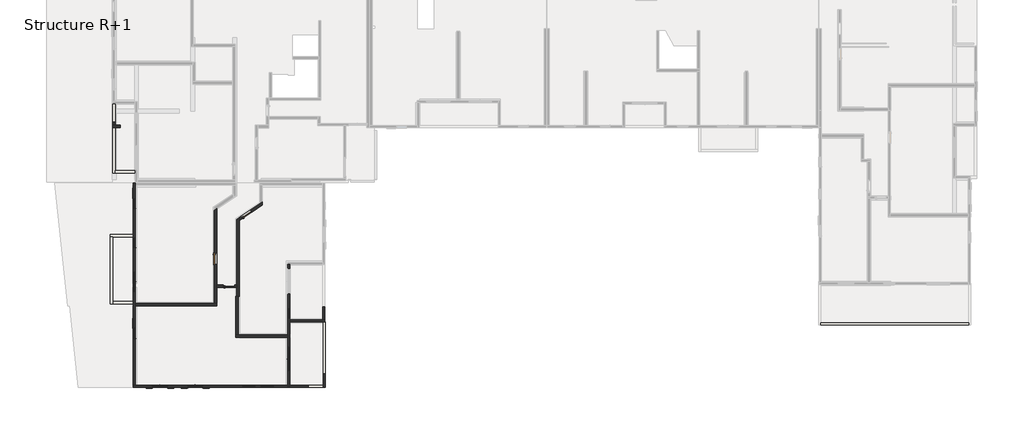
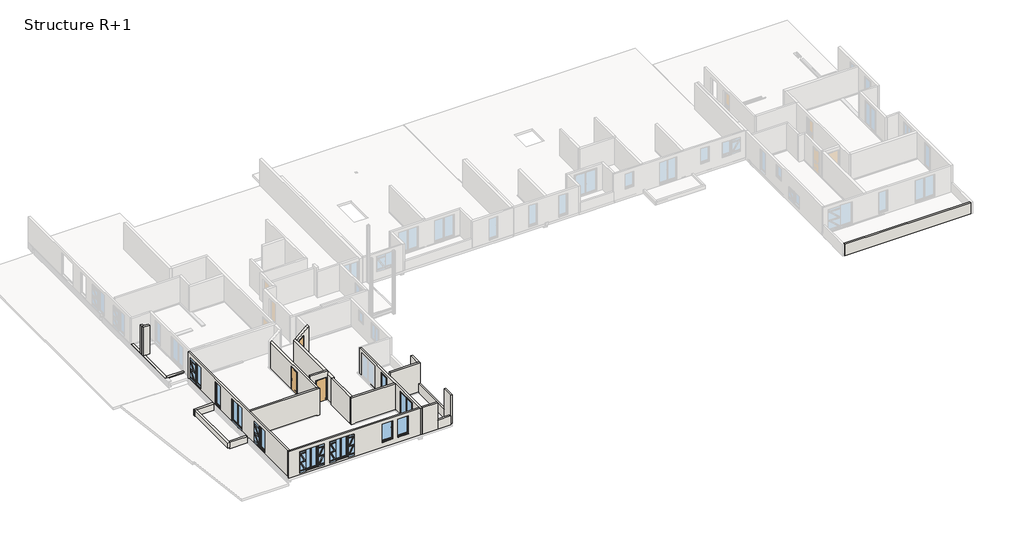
# One storey, part 1 of 11: 24 walls, 10 windows, 3 doors.
"""IFC4 building model written with IfcOpenShell, lengths in millimetres."""

from ifc_helpers import new_model, si_unit, frame, origin, place, context, project, spatial, polyline, outline, extrude, faceted_brep, transform, mapped, element, save
from components import door_6208809c, window_0_80m_x_2_05m_45d8a1b5, window_0_80m_x_2_15m_73fb6ae2, window_1_vantail_droit_db0ce4d6, window_1_00m_x_1_75m_f7db58c6, window_1_10m_x_2_05m_0457a856, window_1_60m_x_2_15m_1bfb613b, window_1_80m_x_2_15m_7d3a4370

model = new_model("IFC4")

# Units and contexts
model_context = context("Model", 3, world=origin())
ifc_project = project(units=[si_unit("LENGTHUNIT", "METRE", prefix="MILLI")], contexts=[model_context])

# Site, building, storey
site = spatial("IfcSite", under=ifc_project)
building = spatial("IfcBuilding", under=site)
storey = spatial("IfcBuildingStorey", under=building, Name="Structure R+1", Elevation=3320.0)

# Doors
placement = place(None, origin())
door_shape = door_6208809c(model_context)
element("IfcDoor", 1, ObjectType="Entrée (avec angle d'ouverture) : PP Lisse (0.90 m x 2.15 m)", at=placement, inside=storey, context=model_context, shape_type="MappedRepresentation", body=[
    mapped(door_shape, transform((12738.9344904, 1911.6114807, 3320.0), x_axis=(1.0, 0.0, 0.0), y_axis=(0.0, 1.0, 0.0), z_axis=(0.0, 0.0, 1.0))),
])
element("IfcDoor", 2, ObjectType="Entrée (avec angle d'ouverture) : PP Lisse (0.90 m x 2.15 m)", at=placement, inside=storey, context=model_context, shape_type="MappedRepresentation", body=[
    mapped(door_shape, transform((11654.0730744, 4064.6107801, 3320.0), x_axis=(0.0, -1.0, 0.0), y_axis=(1.0, 0.0, 0.0), z_axis=(0.0, 0.0, 1.0))),
])
element("IfcDoor", 3, ObjectType="Entrée (avec angle d'ouverture) : PP Lisse (0.90 m x 2.15 m)", at=placement, inside=storey, context=model_context, shape_type="MappedRepresentation", body=[
    mapped(door_shape, transform((14099.7641367, 7598.9331745, 3320.0), x_axis=(0.8253883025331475, 0.5645654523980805, 0.0), y_axis=(-0.5645654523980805, 0.8253883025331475, 0.0), z_axis=(0.0, 0.0, 1.0))),
])

# Walls
element("IfcWall", 4, ObjectType="Ext. Voile BA 16 + 2 + 2", at=placement, inside=storey, context=model_context, shape_type="Brep", body=[
    faceted_brep([(18982.9329233, -6105.1620119, 5830.0), (17522.934101, -6105.1620119, 5830.0), (17522.934101, -6105.1620119, 3230.0), (18982.9329233, -6105.1620119, 3230.0), (18982.9329233, -6105.1620119, 4120.0), (17522.934101, -5945.1620119, 5830.0), (18982.9329233, -5945.1620119, 5830.0), (18982.9329233, -5945.1620119, 4120.0), (18982.9329233, -5945.1620119, 3230.0), (17522.934101, -5945.1620119, 3230.0)], [[[0, 1, 2, 3, 4]], [[5, 6, 7, 8, 9]], [[6, 0, 4, 3, 8, 7]], [[1, 0, 6, 5]], [[3, 2, 9, 8]], [[1, 5, 9, 2]]]),
])
element("IfcWall", 5, ObjectType="Ext. Voile BA 16 + 2 + 2", at=placement, inside=storey, context=model_context, shape_type="Brep", body=[
    faceted_brep([(20327.8598396, -6105.1620119, 6120.0), (20327.8598396, -6105.1620119, 3320.0), (20327.8598396, -5045.6481556, 3320.0), (20327.8598396, -5045.6481556, 4130.0), (20327.8598396, -5045.6481556, 6120.0), (20167.8598396, -6105.1620119, 3320.0), (20167.8598396, -6105.1620119, 4120.0), (20167.8598396, -6105.1620119, 5830.0), (20167.8598396, -6105.1620119, 6120.0), (20167.8598396, -5045.6481556, 6120.0), (20167.8598396, -5045.6481556, 4130.0), (20167.8598396, -5045.6481556, 3320.0)], [[[0, 1, 2, 3, 4]], [[5, 6, 7, 8, 9, 10, 11]], [[2, 1, 5, 11]], [[4, 3, 2, 11, 10, 9]], [[0, 4, 9, 8]], [[0, 8, 7, 6, 5, 1]]]),
])
element("IfcWall", 6, ObjectType="Ext. Voile BA 16 + 2 + 2", at=placement, inside=storey, context=model_context, shape_type="Brep", body=[
    faceted_brep([(17535.920738, -934.9801512, 3320.0), (20315.920738, -934.9801512, 3320.0), (20315.920738, -934.9801512, 6120.0), (17535.920738, -934.9801512, 6120.0), (17535.920738, -774.9801512, 3320.0), (17535.920738, -774.9801512, 6120.0), (20155.920738, -774.9801512, 6120.0), (20315.920738, -774.9801512, 6120.0), (20315.920738, -774.9801512, 3320.0), (20155.920738, -774.9801512, 3320.0)], [[[0, 1, 2, 3]], [[4, 5, 6, 7, 8, 9]], [[1, 0, 4, 9, 8]], [[3, 2, 7, 6, 5]], [[0, 3, 5, 4]], [[1, 8, 7, 2]]]),
])
element("IfcWall", 7, ObjectType="Ext. Voile BA 16 + 2 + 2", at=placement, inside=storey, context=model_context, shape_type="Brep", body=[
    faceted_brep([(20315.920738, -774.9801512, 6120.0), (20315.920738, -774.9801512, 3320.0), (20315.920738, 265.0198488, 3320.0), (20315.920738, 265.0198488, 4130.0), (20315.920738, 265.0198488, 6120.0), (20155.920738, -774.9801512, 3320.0), (20155.920738, -774.9801512, 6120.0), (20155.920738, 265.0198488, 6120.0), (20155.920738, 265.0198488, 4130.0), (20155.920738, 265.0198488, 3320.0)], [[[0, 1, 2, 3, 4]], [[5, 6, 7, 8, 9]], [[2, 1, 5, 9]], [[4, 3, 2, 9, 8, 7]], [[0, 4, 7, 6]], [[0, 6, 5, 1]]]),
])
element("IfcWall", 8, ObjectType="Ext. Voile BA 16 + 2 + 2", at=placement, inside=storey, context=model_context, shape_type="Brep", body=[
    faceted_brep([(20327.8598396, -5045.6481556, 3230.0), (20327.8598396, -934.9801512, 3230.0), (20327.8598396, -934.9801512, 4130.0), (20327.8598396, -5045.6481556, 4130.0), (20327.8598396, -5045.6481556, 3320.0), (20167.8598396, -5045.6481556, 3230.0), (20167.8598396, -5045.6481556, 3320.0), (20167.8598396, -5045.6481556, 4130.0), (20167.8598396, -934.9801512, 4130.0), (20167.8598396, -934.9801512, 3230.0)], [[[0, 1, 2, 3, 4]], [[5, 6, 7, 8, 9]], [[1, 0, 5, 9]], [[3, 2, 8, 7]], [[0, 4, 3, 7, 6, 5]], [[2, 1, 9, 8]]]),
])
element("IfcWall", 9, ObjectType="Ext. Voile BA 16 + 2 + 2", at=placement, inside=storey, context=model_context, shape_type="Brep", body=[
    faceted_brep([(20167.8598396, -6105.1620119, 4120.0), (18982.9329233, -6105.1620119, 4120.0), (18982.9329233, -6105.1620119, 3230.0), (20167.8598396, -6105.1620119, 3230.0), (20167.8598396, -6105.1620119, 3320.0), (18982.9329233, -5945.1620119, 4120.0), (20167.8598396, -5945.1620119, 4120.0), (20167.8598396, -5945.1620119, 3230.0), (18982.9329233, -5945.1620119, 3230.0)], [[[0, 1, 2, 3, 4]], [[5, 6, 7, 8]], [[1, 0, 6, 5]], [[1, 5, 8, 2]], [[3, 2, 8, 7]], [[6, 0, 4, 3, 7]]]),
])
element("IfcWall", 10, ObjectType="Ext. Voile BA 16 + 2 + 2", at=placement, inside=storey, context=model_context, shape_type="SweptSolid", body=[
    extrude(outline(polyline([(-1157.3118451, 3030.0), (-1157.3118451, 4130.0), (-997.3118451, 4130.0), (-997.3118451, 3230.0), (-1137.3140034, 3230.0), (-1137.3140034, 3030.0), (-1157.3118451, 3030.0)])), frame((59492.9059955, 0.0, 0.0), z_axis=(1.0, 0.0, 0.0), x_axis=(0.0, 1.0, 0.0)), (0.0, 0.0, 1.0), 11684.1221954),
])
element("IfcWall", 11, ObjectType="Ext. Voile BA 16 + Isolant 120", at=placement, inside=storey, context=model_context, shape_type="Brep", body=[
    faceted_brep([(17362.934101, 3635.465256, 3230.0), (17362.934101, -1937.3575704, 3230.0), (17362.934101, -2137.3575704, 3230.0), (17362.934101, -5945.1620119, 3230.0), (17362.934101, -6105.1620119, 3230.0), (17362.934101, -6105.1620119, 5830.0), (17362.934101, -5945.1620119, 5830.0), (17362.934101, -2137.3575704, 5830.0), (17362.934101, -1937.3575704, 5830.0), (17362.934101, 3635.465256, 5830.0), (17362.934101, -4787.3575704, 3355.0), (17362.934101, -2887.3575704, 3355.0), (17362.934101, -2887.3575704, 5555.0), (17362.934101, -4787.3575704, 5555.0), (17362.934101, -710.0285448, 4055.0), (17362.934101, 189.9714552, 4055.0), (17362.934101, 189.9714552, 5555.0), (17362.934101, -710.0285448, 5555.0), (17362.934101, 1245.465256, 3355.0), (17362.934101, 3345.465256, 3355.0), (17362.934101, 3345.465256, 5555.0), (17362.934101, 1245.465256, 5555.0), (17522.934101, 3635.465256, 3230.0), (17522.934101, 3635.465256, 5830.0), (17522.934101, -5945.1620119, 5830.0), (17522.934101, -6105.1620119, 5830.0), (17522.934101, -6105.1620119, 3230.0), (17522.934101, -5945.1620119, 3230.0), (17522.934101, -2937.3575704, 5505.0), (17522.934101, -2937.3575704, 3346.5916612), (17522.934101, -4737.3575704, 3346.5916612), (17522.934101, -4737.3575704, 5505.0), (17522.934101, 139.9714552, 5505.0), (17522.934101, 139.9714552, 3975.0), (17522.934101, -660.0285448, 3975.0), (17522.934101, -660.0285448, 5505.0), (17522.934101, 3295.465256, 5505.0), (17522.934101, 3295.465256, 3346.5916612), (17522.934101, 1295.465256, 3346.5916612), (17522.934101, 1295.465256, 5505.0), (17442.934101, -6105.1620119, 5830.0), (17442.934101, -2937.3575704, 3355.0), (17462.934101, -2937.3575704, 5505.0), (17462.934101, -2937.3575704, 3355.0), (17442.934101, -4737.3575704, 3355.0), (17462.934101, -4737.3575704, 3355.0), (17462.934101, -4737.3575704, 5505.0), (17462.934101, -2927.3575704, 3355.0), (17412.934101, -2927.3575704, 3355.0), (17412.934101, -2887.3575704, 3355.0), (17412.934101, -4787.3575704, 3355.0), (17412.934101, -4747.3575704, 3355.0), (17462.934101, -4747.3575704, 3355.0), (17412.934101, -2887.3575704, 5555.0), (17412.934101, -2927.3575704, 5515.0), (17412.934101, -4747.3575704, 5515.0), (17412.934101, -4787.3575704, 5555.0), (17462.934101, -2927.3575704, 5515.0), (17462.934101, -4747.3575704, 5515.0), (17442.934101, 139.9714552, 4055.0), (17442.934101, 139.9714552, 3975.0), (17462.934101, 139.9714552, 5505.0), (17462.934101, 139.9714552, 4055.0), (17442.934101, -660.0285448, 3975.0), (17442.934101, -660.0285448, 4055.0), (17462.934101, -660.0285448, 4055.0), (17462.934101, -660.0285448, 5505.0), (17462.934101, 149.9714552, 4055.0), (17412.934101, 149.9714552, 4055.0), (17412.934101, 189.9714552, 4055.0), (17412.934101, -710.0285448, 4055.0), (17412.934101, -670.0285448, 4055.0), (17462.934101, -670.0285448, 4055.0), (17412.934101, 189.9714552, 5555.0), (17412.934101, 149.9714552, 5515.0), (17412.934101, -670.0285448, 5515.0), (17412.934101, -710.0285448, 5555.0), (17462.934101, 149.9714552, 5515.0), (17462.934101, -670.0285448, 5515.0), (17442.934101, 3295.465256, 3355.0), (17462.934101, 3295.465256, 5505.0), (17462.934101, 3295.465256, 3355.0), (17442.934101, 1295.465256, 3355.0), (17462.934101, 1295.465256, 3355.0), (17462.934101, 1295.465256, 5505.0), (17462.934101, 3305.465256, 3355.0), (17412.934101, 3305.465256, 3355.0), (17412.934101, 3345.465256, 3355.0), (17412.934101, 1245.465256, 3355.0), (17412.934101, 1285.465256, 3355.0), (17462.934101, 1285.465256, 3355.0), (17412.934101, 3345.465256, 5555.0), (17412.934101, 3305.465256, 5515.0), (17412.934101, 1285.465256, 5515.0), (17412.934101, 1245.465256, 5555.0), (17462.934101, 3305.465256, 5515.0), (17462.934101, 1285.465256, 5515.0)], [[[0, 1, 2, 3, 4, 5, 6, 7, 8, 9], [10, 11, 12, 13], [14, 15, 16, 17], [18, 19, 20, 21]], [[22, 23, 24, 25, 26, 27], [28, 29, 30, 31], [32, 33, 34, 35], [36, 37, 38, 39]], [[4, 3, 2, 1, 0, 22, 27, 26]], [[9, 8, 7, 6, 5, 40, 25, 24, 23]], [[0, 9, 23, 22]], [[5, 4, 26, 25, 40]], [[41, 29, 28, 42, 43]], [[30, 44, 45, 46, 31]], [[41, 44, 30, 29]], [[28, 31, 46, 42]], [[44, 41, 43, 47, 48, 49, 11, 10, 50, 51, 52, 45]], [[11, 49, 53, 12]], [[49, 48, 54, 55, 51, 50, 56, 53]], [[48, 47, 57, 54]], [[47, 43, 42, 46, 45, 52, 58, 57]], [[12, 53, 56, 13]], [[55, 54, 57, 58]], [[56, 50, 10, 13]], [[51, 55, 58, 52]], [[59, 60, 33, 32, 61, 62]], [[63, 64, 65, 66, 35, 34]], [[60, 63, 34, 33]], [[60, 59, 64, 63]], [[32, 35, 66, 61]], [[64, 59, 62, 67, 68, 69, 15, 14, 70, 71, 72, 65]], [[15, 69, 73, 16]], [[69, 68, 74, 75, 71, 70, 76, 73]], [[68, 67, 77, 74]], [[67, 62, 61, 66, 65, 72, 78, 77]], [[16, 73, 76, 17]], [[75, 74, 77, 78]], [[76, 70, 14, 17]], [[71, 75, 78, 72]], [[79, 37, 36, 80, 81]], [[38, 82, 83, 84, 39]], [[79, 82, 38, 37]], [[36, 39, 84, 80]], [[82, 79, 81, 85, 86, 87, 19, 18, 88, 89, 90, 83]], [[19, 87, 91, 20]], [[87, 86, 92, 93, 89, 88, 94, 91]], [[86, 85, 95, 92]], [[85, 81, 80, 84, 83, 90, 96, 95]], [[20, 91, 94, 21]], [[93, 92, 95, 96]], [[94, 88, 18, 21]], [[89, 93, 96, 90]]]),
])
element("IfcWall", 12, ObjectType="Ext. Voile BA 16 + Isolant 120", at=placement, inside=storey, context=model_context, shape_type="Brep", body=[
    faceted_brep([(5184.2512184, -5945.1620119, 5830.0), (5344.2512184, -5945.1620119, 5830.0), (17362.934101, -5945.1620119, 5830.0), (17362.934101, -5945.1620119, 3230.0), (5344.2512184, -5945.1620119, 3230.0), (5184.2512184, -5945.1620119, 3230.0), (6684.2512184, -5945.1620119, 3455.0), (7884.2512184, -5945.1620119, 3455.0), (7884.2512184, -5945.1620119, 5555.0), (6684.2512184, -5945.1620119, 5555.0), (9464.2512184, -5945.1620119, 3455.0), (10664.2512184, -5945.1620119, 3455.0), (10664.2512184, -5945.1620119, 5555.0), (9464.2512184, -5945.1620119, 5555.0), (13752.934101, -5945.1620119, 3755.0), (14852.934101, -5945.1620119, 3755.0), (14852.934101, -5945.1620119, 5555.0), (13752.934101, -5945.1620119, 5555.0), (15202.934101, -5945.1620119, 3755.0), (16302.934101, -5945.1620119, 3755.0), (16302.934101, -5945.1620119, 5555.0), (15202.934101, -5945.1620119, 5555.0), (17362.934101, -6105.1620119, 5830.0), (5184.2512184, -6105.1620119, 5830.0), (5184.2512184, -6105.1620119, 3230.0), (17362.934101, -6105.1620119, 3230.0), (7834.2512184, -6105.1620119, 5505.0), (7834.2512184, -6105.1620119, 3446.5916612), (6734.2512184, -6105.1620119, 3446.5916612), (6734.2512184, -6105.1620119, 5505.0), (10614.2512184, -6105.1620119, 5505.0), (10614.2512184, -6105.1620119, 3446.5916612), (9514.2512184, -6105.1620119, 3446.5916612), (9514.2512184, -6105.1620119, 5505.0), (14802.934101, -6105.1620119, 5505.0), (14802.934101, -6105.1620119, 3746.5916612), (13802.934101, -6105.1620119, 3746.5916612), (13802.934101, -6105.1620119, 5505.0), (16252.934101, -6105.1620119, 5505.0), (16252.934101, -6105.1620119, 3746.5916612), (15252.934101, -6105.1620119, 3746.5916612), (15252.934101, -6105.1620119, 5505.0), (7834.2512184, -6025.1620119, 3455.0), (7834.2512184, -6045.1620119, 5505.0), (7834.2512184, -6045.1620119, 3455.0), (6734.2512184, -6025.1620119, 3455.0), (6734.2512184, -6045.1620119, 3455.0), (6734.2512184, -6045.1620119, 5505.0), (7844.2512184, -6045.1620119, 3455.0), (7844.2512184, -5995.1620119, 3455.0), (7884.2512184, -5995.1620119, 3455.0), (6684.2512184, -5995.1620119, 3455.0), (6724.2512184, -5995.1620119, 3455.0), (6724.2512184, -6045.1620119, 3455.0), (7884.2512184, -5995.1620119, 5555.0), (7844.2512184, -5995.1620119, 5515.0), (6724.2512184, -5995.1620119, 5515.0), (6684.2512184, -5995.1620119, 5555.0), (7844.2512184, -6045.1620119, 5515.0), (6724.2512184, -6045.1620119, 5515.0), (10614.2512184, -6025.1620119, 3455.0), (10614.2512184, -6045.1620119, 5505.0), (10614.2512184, -6045.1620119, 3455.0), (9514.2512184, -6025.1620119, 3455.0), (9514.2512184, -6045.1620119, 3455.0), (9514.2512184, -6045.1620119, 5505.0), (10624.2512184, -6045.1620119, 3455.0), (10624.2512184, -5995.1620119, 3455.0), (10664.2512184, -5995.1620119, 3455.0), (9464.2512184, -5995.1620119, 3455.0), (9504.2512184, -5995.1620119, 3455.0), (9504.2512184, -6045.1620119, 3455.0), (10664.2512184, -5995.1620119, 5555.0), (10624.2512184, -5995.1620119, 5515.0), (9504.2512184, -5995.1620119, 5515.0), (9464.2512184, -5995.1620119, 5555.0), (10624.2512184, -6045.1620119, 5515.0), (9504.2512184, -6045.1620119, 5515.0), (14802.934101, -6025.1620119, 3755.0), (14802.934101, -6045.1620119, 5505.0), (14802.934101, -6045.1620119, 3755.0), (13802.934101, -6025.1620119, 3755.0), (13802.934101, -6045.1620119, 3755.0), (13802.934101, -6045.1620119, 5505.0), (14812.934101, -6045.1620119, 3755.0), (14812.934101, -5995.1620119, 3755.0), (14852.934101, -5995.1620119, 3755.0), (13752.934101, -5995.1620119, 3755.0), (13792.934101, -5995.1620119, 3755.0), (13792.934101, -6045.1620119, 3755.0), (14852.934101, -5995.1620119, 5555.0), (14812.934101, -5995.1620119, 5515.0), (13792.934101, -5995.1620119, 5515.0), (13752.934101, -5995.1620119, 5555.0), (14812.934101, -6045.1620119, 5515.0), (13792.934101, -6045.1620119, 5515.0), (16252.934101, -6025.1620119, 3755.0), (16252.934101, -6045.1620119, 5505.0), (16252.934101, -6045.1620119, 3755.0), (15252.934101, -6025.1620119, 3755.0), (15252.934101, -6045.1620119, 3755.0), (15252.934101, -6045.1620119, 5505.0), (16262.934101, -6045.1620119, 3755.0), (16262.934101, -5995.1620119, 3755.0), (16302.934101, -5995.1620119, 3755.0), (15202.934101, -5995.1620119, 3755.0), (15242.934101, -5995.1620119, 3755.0), (15242.934101, -6045.1620119, 3755.0), (16302.934101, -5995.1620119, 5555.0), (16262.934101, -5995.1620119, 5515.0), (15242.934101, -5995.1620119, 5515.0), (15202.934101, -5995.1620119, 5555.0), (16262.934101, -6045.1620119, 5515.0), (15242.934101, -6045.1620119, 5515.0)], [[[0, 1, 2, 3, 4, 5], [6, 7, 8, 9], [10, 11, 12, 13], [14, 15, 16, 17], [18, 19, 20, 21]], [[22, 23, 24, 25], [26, 27, 28, 29], [30, 31, 32, 33], [34, 35, 36, 37], [38, 39, 40, 41]], [[2, 1, 0, 23, 22]], [[23, 0, 5, 24]], [[2, 22, 25, 3]], [[42, 27, 26, 43, 44]], [[28, 45, 46, 47, 29]], [[27, 42, 45, 28]], [[43, 26, 29, 47]], [[42, 44, 48, 49, 50, 7, 6, 51, 52, 53, 46, 45]], [[7, 50, 54, 8]], [[50, 49, 55, 56, 52, 51, 57, 54]], [[49, 48, 58, 55]], [[44, 43, 47, 46, 53, 59, 58, 48]], [[8, 54, 57, 9]], [[56, 55, 58, 59]], [[51, 6, 9, 57]], [[53, 52, 56, 59]], [[60, 31, 30, 61, 62]], [[32, 63, 64, 65, 33]], [[31, 60, 63, 32]], [[61, 30, 33, 65]], [[60, 62, 66, 67, 68, 11, 10, 69, 70, 71, 64, 63]], [[11, 68, 72, 12]], [[68, 67, 73, 74, 70, 69, 75, 72]], [[67, 66, 76, 73]], [[62, 61, 65, 64, 71, 77, 76, 66]], [[12, 72, 75, 13]], [[74, 73, 76, 77]], [[69, 10, 13, 75]], [[71, 70, 74, 77]], [[78, 35, 34, 79, 80]], [[36, 81, 82, 83, 37]], [[35, 78, 81, 36]], [[79, 34, 37, 83]], [[78, 80, 84, 85, 86, 15, 14, 87, 88, 89, 82, 81]], [[15, 86, 90, 16]], [[86, 85, 91, 92, 88, 87, 93, 90]], [[85, 84, 94, 91]], [[80, 79, 83, 82, 89, 95, 94, 84]], [[16, 90, 93, 17]], [[92, 91, 94, 95]], [[87, 14, 17, 93]], [[89, 88, 92, 95]], [[96, 39, 38, 97, 98]], [[40, 99, 100, 101, 41]], [[39, 96, 99, 40]], [[97, 38, 41, 101]], [[96, 98, 102, 103, 104, 19, 18, 105, 106, 107, 100, 99]], [[19, 104, 108, 20]], [[104, 103, 109, 110, 106, 105, 111, 108]], [[103, 102, 112, 109]], [[98, 97, 101, 100, 107, 113, 112, 102]], [[20, 108, 111, 21]], [[110, 109, 112, 113]], [[105, 18, 21, 111]], [[107, 106, 110, 113]], [[5, 4, 3, 25, 24]]]),
])
element("IfcWall", 13, ObjectType="Ext. Voile BA 16 + Isolant 120", at=placement, inside=storey, context=model_context, shape_type="Brep", body=[
    faceted_brep([(5344.2512184, 10055.4625547, 5830.0), (5344.2512184, 9895.4625547, 5830.0), (5344.2512184, 541.1262359, 5830.0), (5344.2512184, 341.1262359, 5830.0), (5344.2512184, -5945.1620119, 5830.0), (5344.2512184, -5945.1620119, 3230.0), (5344.2512184, 341.1262359, 3230.0), (5344.2512184, 541.1262359, 3230.0), (5344.2512184, 9895.4625547, 3230.0), (5344.2512184, 10055.4625547, 3230.0), (5344.2512184, 8875.4658562, 3455.0), (5344.2512184, 7975.4658562, 3455.0), (5344.2512184, 7975.4658562, 5555.0), (5344.2512184, 8875.4658562, 5555.0), (5344.2512184, 5775.4658562, 3355.0), (5344.2512184, 4875.4658562, 3355.0), (5344.2512184, 4875.4658562, 5555.0), (5344.2512184, 5775.4658562, 5555.0), (5344.2512184, 3091.1262359, 3355.0), (5344.2512184, 1391.1262359, 3355.0), (5344.2512184, 1391.1262359, 5555.0), (5344.2512184, 3091.1262359, 5555.0), (5344.2512184, -1408.8737641, 3455.0), (5344.2512184, -2308.8737641, 3455.0), (5344.2512184, -2308.8737641, 5555.0), (5344.2512184, -1408.8737641, 5555.0), (5184.2512184, -5945.1620119, 5830.0), (5184.2512184, 10055.4625547, 5830.0), (5184.2512184, 10055.4625547, 3230.0), (5184.2512184, -5945.1620119, 3230.0), (5184.2512184, 8025.4658562, 5505.0), (5184.2512184, 8025.4658562, 3446.5916612), (5184.2512184, 8825.4658562, 3446.5916612), (5184.2512184, 8825.4658562, 5505.0), (5184.2512184, 4925.4658562, 5505.0), (5184.2512184, 4925.4658562, 3346.5916612), (5184.2512184, 5725.4658562, 3346.5916612), (5184.2512184, 5725.4658562, 5505.0), (5184.2512184, 1441.1262359, 5505.0), (5184.2512184, 1441.1262359, 3346.5916612), (5184.2512184, 3041.1262359, 3346.5916612), (5184.2512184, 3041.1262359, 5505.0), (5184.2512184, -2258.8737641, 5505.0), (5184.2512184, -2258.8737641, 3446.5916612), (5184.2512184, -1458.8737641, 3446.5916612), (5184.2512184, -1458.8737641, 5505.0), (5264.2512184, 8025.4658562, 3455.0), (5244.2512184, 8025.4658562, 5505.0), (5244.2512184, 8025.4658562, 3455.0), (5264.2512184, 8825.4658562, 3455.0), (5244.2512184, 8825.4658562, 3455.0), (5244.2512184, 8825.4658562, 5505.0), (5244.2512184, 8015.4658562, 3455.0), (5294.2512184, 8015.4658562, 3455.0), (5294.2512184, 7975.4658562, 3455.0), (5294.2512184, 8875.4658562, 3455.0), (5294.2512184, 8835.4658562, 3455.0), (5244.2512184, 8835.4658562, 3455.0), (5294.2512184, 7975.4658562, 5555.0), (5294.2512184, 8015.4658562, 5515.0), (5294.2512184, 8835.4658562, 5515.0), (5294.2512184, 8875.4658562, 5555.0), (5244.2512184, 8015.4658562, 5515.0), (5244.2512184, 8835.4658562, 5515.0), (5264.2512184, 4925.4658562, 3355.0), (5244.2512184, 4925.4658562, 5505.0), (5244.2512184, 4925.4658562, 3355.0), (5264.2512184, 5725.4658562, 3355.0), (5244.2512184, 5725.4658562, 3355.0), (5244.2512184, 5725.4658562, 5505.0), (5244.2512184, 4915.4658562, 3355.0), (5294.2512184, 4915.4658562, 3355.0), (5294.2512184, 4875.4658562, 3355.0), (5294.2512184, 5775.4658562, 3355.0), (5294.2512184, 5735.4658562, 3355.0), (5244.2512184, 5735.4658562, 3355.0), (5294.2512184, 4875.4658562, 5555.0), (5294.2512184, 4915.4658562, 5515.0), (5294.2512184, 5735.4658562, 5515.0), (5294.2512184, 5775.4658562, 5555.0), (5244.2512184, 4915.4658562, 5515.0), (5244.2512184, 5735.4658562, 5515.0), (5264.2512184, 1441.1262359, 3355.0), (5244.2512184, 1441.1262359, 5505.0), (5244.2512184, 1441.1262359, 3355.0), (5264.2512184, 3041.1262359, 3355.0), (5244.2512184, 3041.1262359, 3355.0), (5244.2512184, 3041.1262359, 5505.0), (5244.2512184, 1431.1262359, 3355.0), (5294.2512184, 1431.1262359, 3355.0), (5294.2512184, 1391.1262359, 3355.0), (5294.2512184, 3091.1262359, 3355.0), (5294.2512184, 3051.1262359, 3355.0), (5244.2512184, 3051.1262359, 3355.0), (5294.2512184, 1391.1262359, 5555.0), (5294.2512184, 1431.1262359, 5515.0), (5294.2512184, 3051.1262359, 5515.0), (5294.2512184, 3091.1262359, 5555.0), (5244.2512184, 1431.1262359, 5515.0), (5244.2512184, 3051.1262359, 5515.0), (5264.2512184, -2258.8737641, 3455.0), (5244.2512184, -2258.8737641, 5505.0), (5244.2512184, -2258.8737641, 3455.0), (5264.2512184, -1458.8737641, 3455.0), (5244.2512184, -1458.8737641, 3455.0), (5244.2512184, -1458.8737641, 5505.0), (5244.2512184, -2268.8737641, 3455.0), (5294.2512184, -2268.8737641, 3455.0), (5294.2512184, -2308.8737641, 3455.0), (5294.2512184, -1408.8737641, 3455.0), (5294.2512184, -1448.8737641, 3455.0), (5244.2512184, -1448.8737641, 3455.0), (5294.2512184, -2308.8737641, 5555.0), (5294.2512184, -2268.8737641, 5515.0), (5294.2512184, -1448.8737641, 5515.0), (5294.2512184, -1408.8737641, 5555.0), (5244.2512184, -2268.8737641, 5515.0), (5244.2512184, -1448.8737641, 5515.0)], [[[0, 1, 2, 3, 4, 5, 6, 7, 8, 9], [10, 11, 12, 13], [14, 15, 16, 17], [18, 19, 20, 21], [22, 23, 24, 25]], [[26, 27, 28, 29], [30, 31, 32, 33], [34, 35, 36, 37], [38, 39, 40, 41], [42, 43, 44, 45]], [[4, 3, 2, 1, 0, 27, 26]], [[4, 26, 29, 5]], [[46, 31, 30, 47, 48]], [[32, 49, 50, 51, 33]], [[31, 46, 49, 32]], [[47, 30, 33, 51]], [[46, 48, 52, 53, 54, 11, 10, 55, 56, 57, 50, 49]], [[11, 54, 58, 12]], [[54, 53, 59, 60, 56, 55, 61, 58]], [[53, 52, 62, 59]], [[48, 47, 51, 50, 57, 63, 62, 52]], [[12, 58, 61, 13]], [[60, 59, 62, 63]], [[55, 10, 13, 61]], [[57, 56, 60, 63]], [[64, 35, 34, 65, 66]], [[36, 67, 68, 69, 37]], [[35, 64, 67, 36]], [[65, 34, 37, 69]], [[64, 66, 70, 71, 72, 15, 14, 73, 74, 75, 68, 67]], [[15, 72, 76, 16]], [[72, 71, 77, 78, 74, 73, 79, 76]], [[71, 70, 80, 77]], [[66, 65, 69, 68, 75, 81, 80, 70]], [[16, 76, 79, 17]], [[78, 77, 80, 81]], [[73, 14, 17, 79]], [[75, 74, 78, 81]], [[82, 39, 38, 83, 84]], [[40, 85, 86, 87, 41]], [[39, 82, 85, 40]], [[83, 38, 41, 87]], [[82, 84, 88, 89, 90, 19, 18, 91, 92, 93, 86, 85]], [[19, 90, 94, 20]], [[90, 89, 95, 96, 92, 91, 97, 94]], [[89, 88, 98, 95]], [[84, 83, 87, 86, 93, 99, 98, 88]], [[20, 94, 97, 21]], [[96, 95, 98, 99]], [[91, 18, 21, 97]], [[93, 92, 96, 99]], [[100, 43, 42, 101, 102]], [[44, 103, 104, 105, 45]], [[43, 100, 103, 44]], [[101, 42, 45, 105]], [[100, 102, 106, 107, 108, 23, 22, 109, 110, 111, 104, 103]], [[23, 108, 112, 24]], [[108, 107, 113, 114, 110, 109, 115, 112]], [[107, 106, 116, 113]], [[102, 101, 105, 104, 111, 117, 116, 106]], [[24, 112, 115, 25]], [[114, 113, 116, 117]], [[109, 22, 25, 115]], [[111, 110, 114, 117]], [[27, 0, 9, 28]], [[9, 8, 7, 6, 5, 29, 28]]]),
])
element("IfcWall", 14, ObjectType="Voile BA 20", at=placement, inside=storey, context=model_context, shape_type="Brep", body=[
    faceted_brep([(17362.934101, -1937.3575704, 3230.0), (13465.9339903, -1937.3575704, 3230.0), (13265.9339903, -1937.3575704, 3230.0), (13265.9339903, -1937.3575704, 5830.0), (13465.9339903, -1937.3575704, 5830.0), (17362.934101, -1937.3575704, 5830.0), (17362.934101, -2137.3575704, 3230.0), (17362.934101, -2137.3575704, 5830.0), (13265.9339903, -2137.3575704, 5830.0), (13265.9339903, -2137.3575704, 3230.0)], [[[0, 1, 2, 3, 4, 5]], [[6, 7, 8, 9]], [[2, 1, 0, 6, 9]], [[5, 4, 3, 8, 7]], [[0, 5, 7, 6]], [[3, 2, 9, 8]]]),
])
element("IfcWall", 15, ObjectType="Voile BA 20", at=placement, inside=storey, context=model_context, shape_type="Brep", body=[
    faceted_brep([(13465.9339903, -1937.3575704, 3230.0), (13465.9339903, 1096.6940149, 3230.0), (13465.9339903, 1096.6940149, 5830.0), (13465.9339903, -1937.3575704, 5830.0), (13265.9339903, -1937.3575704, 3230.0), (13265.9339903, -1937.3575704, 5830.0), (13265.9339903, 1096.6940149, 5830.0), (13265.9339903, 1096.6940149, 3230.0), (13328.9344904, 1096.6940149, 3230.0), (13328.9344904, 1096.6940149, 5830.0)], [[[0, 1, 2, 3]], [[4, 5, 6, 7]], [[1, 0, 4, 7, 8]], [[2, 1, 8, 7, 6, 9]], [[3, 2, 9, 6, 5]], [[0, 3, 5, 4]]]),
])
element("IfcWall", 16, ObjectType="Voile BA 20", at=placement, inside=storey, context=model_context, shape_type="Brep", body=[
    faceted_brep([(5344.2512184, 341.1262359, 3230.0), (11754.0730744, 341.1262359, 3230.0), (11754.0730744, 341.1262359, 5830.0), (5344.2512184, 341.1262359, 5830.0), (5344.2512184, 541.1262359, 3230.0), (5344.2512184, 541.1262359, 5830.0), (11554.0730744, 541.1262359, 5830.0), (11754.0730744, 541.1262359, 5830.0), (11754.0730744, 541.1262359, 3230.0), (11554.0730744, 541.1262359, 3230.0)], [[[0, 1, 2, 3]], [[4, 5, 6, 7, 8, 9]], [[1, 0, 4, 9, 8]], [[3, 2, 7, 6, 5]], [[0, 3, 5, 4]], [[2, 1, 8, 7]]]),
])
element("IfcWall", 17, ObjectType="Voile BA 20", at=placement, inside=storey, context=model_context, shape_type="Brep", body=[
    faceted_brep([(4148.3371258, 14649.376496, 3320.0), (3748.3371258, 14649.376496, 3320.0), (3548.3371258, 14649.376496, 3320.0), (3548.3371258, 14649.376496, 6120.0), (3748.3371258, 14649.376496, 6120.0), (4148.3371258, 14649.376496, 6120.0), (4148.3371258, 14449.376496, 3320.0), (4148.3371258, 14449.376496, 6120.0), (3548.3371258, 14449.376496, 6120.0), (3548.3371258, 14449.376496, 3320.0)], [[[0, 1, 2, 3, 4, 5]], [[6, 7, 8, 9]], [[2, 1, 0, 6, 9]], [[5, 4, 3, 8, 7]], [[0, 5, 7, 6]], [[3, 2, 9, 8]]]),
])
element("IfcWall", 18, ObjectType="Voile BA 20", at=placement, inside=storey, context=model_context, shape_type="SweptSolid", body=[
    extrude(outline(polyline([(3748.3371258, 14889.376496), (3748.3371258, 14649.376496), (3548.3371258, 14649.376496), (3548.3371258, 14889.376496), (3748.3371258, 14889.376496)])), frame((0.0, 0.0, 3320.0), z_axis=(0.0, 0.0, 1.0), x_axis=(1.0, 0.0, 0.0)), (0.0, 0.0, 1.0), 2800.0),
])
element("IfcWall", 19, ObjectType="Voile BA 20", at=placement, inside=storey, context=model_context, shape_type="Brep", body=[
    faceted_brep([(3536.9058449, 16355.4652425, 2830.0), (3536.9058449, 10855.4652425, 2830.0), (3536.9058449, 10855.4652425, 3330.0), (3536.9058449, 16355.4652425, 3330.0), (3536.9058449, 16355.4652425, 3230.0), (3736.9058449, 16355.4652425, 2830.0), (3736.9058449, 16355.4652425, 3330.0), (3736.9058449, 11055.4652425, 3330.0), (3736.9058449, 10855.4652425, 3330.0), (3736.9058449, 10855.4652425, 2830.0), (3736.9058449, 11055.4652425, 2830.0)], [[[0, 1, 2, 3, 4]], [[5, 6, 7, 8, 9, 10]], [[1, 0, 5, 10, 9]], [[3, 2, 8, 7, 6]], [[0, 4, 3, 6, 5]], [[2, 1, 9, 8]]]),
])
element("IfcWall", 20, ObjectType="Voile BA 20", at=placement, inside=storey, context=model_context, shape_type="SweptSolid", body=[
    extrude(outline(polyline([(5329.893812, 10855.4652425), (3736.9058449, 10855.4652425), (3736.9058449, 11055.4652425), (5329.893812, 11055.4652425), (5329.893812, 10855.4652425)])), frame((0.0, 0.0, 2830.0), z_axis=(0.0, 0.0, 1.0), x_axis=(1.0, 0.0, 0.0)), (0.0, 0.0, 1.0), 500.0),
])
element("IfcWall", 21, ObjectType="Voile BA 20", at=placement, inside=storey, context=model_context, shape_type="Brep", body=[
    faceted_brep([(5184.2512184, 6002.4700355, 2710.0), (3344.2538576, 6002.4700355, 2710.0), (3344.2538576, 6002.4700355, 3330.0), (5184.2512184, 6002.4700355, 3330.0), (5184.2512184, 5802.4700355, 2710.0), (5184.2512184, 5802.4700355, 3330.0), (3544.2538576, 5802.4700355, 3330.0), (3344.2538576, 5802.4700355, 3330.0), (3344.2538576, 5802.4700355, 2830.0), (3344.2538576, 5802.4700355, 2710.0)], [[[0, 1, 2, 3]], [[4, 5, 6, 7, 8, 9]], [[1, 0, 4, 9]], [[3, 2, 7, 6, 5]], [[0, 3, 5, 4]], [[2, 1, 9, 8, 7]]]),
])
element("IfcWall", 22, ObjectType="Voile BA 20", at=placement, inside=storey, context=model_context, shape_type="Brep", body=[
    faceted_brep([(3344.2538576, 5802.4700355, 2830.0), (3344.2538576, 502.4700355, 2830.0), (3344.2538576, 502.4700355, 3330.0), (3344.2538576, 5802.4700355, 3330.0), (3544.2538576, 5802.4700355, 2830.0), (3544.2538576, 5802.4700355, 3330.0), (3544.2538576, 702.4700355, 3330.0), (3544.2538576, 502.4700355, 3330.0), (3544.2538576, 502.4700355, 2830.0)], [[[0, 1, 2, 3]], [[4, 5, 6, 7, 8]], [[1, 0, 4, 8]], [[3, 2, 7, 6, 5]], [[0, 3, 5, 4]], [[2, 1, 8, 7]]]),
])
element("IfcWall", 23, ObjectType="Voile BA 20", at=placement, inside=storey, context=model_context, shape_type="Brep", body=[
    faceted_brep([(3544.2538576, 502.4700355, 2710.0), (5144.2538576, 502.4700355, 2710.0), (5144.2538576, 502.4700355, 3330.0), (3544.2538576, 502.4700355, 3330.0), (3544.2538576, 502.4700355, 2830.0), (3544.2538576, 702.4700355, 2710.0), (3544.2538576, 702.4700355, 3330.0), (5144.2538576, 702.4700355, 3330.0), (5144.2538576, 702.4700355, 2710.0)], [[[0, 1, 2, 3, 4]], [[5, 6, 7, 8]], [[1, 0, 5, 8]], [[2, 1, 8, 7]], [[3, 2, 7, 6]], [[0, 4, 3, 6, 5]]]),
])
element("IfcWall", 24, ObjectType="Voile BA 20 + Isolant 60", at=placement, inside=storey, context=model_context, shape_type="Brep", body=[
    faceted_brep([(13528.9344904, 1096.6940149, 3230.0), (13528.9344904, 7087.3307006, 3230.0), (13528.9344904, 7329.6408949, 3230.0), (13528.9344904, 7329.6408949, 5830.0), (13528.9344904, 7087.3307006, 5830.0), (13528.9344904, 1096.6940149, 5830.0), (13328.9344904, 1096.6940149, 3230.0), (13328.9344904, 1096.6940149, 5830.0), (13328.9344904, 7192.8409304, 5830.0), (13328.9344904, 7192.8409304, 3230.0), (13465.9339903, 1096.6940149, 3230.0), (13465.9339903, 1096.6940149, 5830.0)], [[[0, 1, 2, 3, 4, 5]], [[6, 7, 8, 9]], [[2, 1, 0, 10, 6, 9]], [[5, 4, 3, 8, 7, 11]], [[0, 5, 11, 7, 6, 10]], [[3, 2, 9, 8]]]),
])
element("IfcWall", 25, ObjectType="Voile BA 20 + Isolant 60", at=placement, inside=storey, context=model_context, shape_type="Brep", body=[
    faceted_brep([(13528.9344904, 7087.3307006, 3230.0), (15352.2580905, 8334.4837193, 3230.0), (15352.2580905, 8334.4837193, 5830.0), (13528.9344904, 7087.3307006, 5830.0), (13768.2881798, 7251.0485816, 3320.0), (13743.5265307, 7234.111618, 3320.0), (13743.5265307, 7234.111618, 5510.0), (14552.4070672, 7787.3857614, 5510.0), (14552.4070672, 7787.3857614, 3320.0), (14527.6454181, 7770.4487978, 3320.0), (15352.2580905, 8576.7939137, 3230.0), (15152.2580905, 8439.9939492, 3230.0), (13528.9344904, 7329.6408949, 3230.0), (13528.9344904, 7329.6408949, 5830.0), (15152.2580905, 8439.9939492, 5830.0), (15352.2580905, 8576.7939137, 5830.0), (14414.7323276, 7935.5264583, 5480.0), (13655.3750893, 7416.1262421, 5480.0), (13655.3750893, 7416.1262421, 3320.0), (14414.7323276, 7935.5264583, 3320.0), (14471.1888729, 7852.987628, 5480.0), (13711.8316345, 7333.5874118, 5480.0), (13711.8316345, 7333.5874118, 3320.0), (13699.45081, 7325.1189301, 3320.0), (13723.7271245, 7289.627233, 3320.0), (13711.3462999, 7281.1587513, 3320.0), (14520.2268364, 7834.4328946, 3320.0), (14507.8460119, 7825.9644128, 3320.0), (14483.5696974, 7861.4561098, 3320.0), (14471.1888729, 7852.987628, 3320.0), (13723.7271245, 7289.627233, 5495.0), (14507.8460119, 7825.9644128, 5495.0), (14520.2268364, 7834.4328946, 5510.0), (13711.3462999, 7281.1587513, 5510.0), (13699.45081, 7325.1189301, 5495.0), (14483.5696974, 7861.4561098, 5495.0)], [[[0, 1, 2, 3], [4, 5, 6, 7, 8, 9]], [[10, 11, 12, 13, 14, 15], [16, 17, 18, 19]], [[1, 0, 12, 11, 10]], [[3, 2, 15, 14, 13]], [[0, 3, 13, 12]], [[2, 1, 10, 15]], [[20, 21, 17, 16]], [[22, 23, 24, 25, 5, 4, 9, 8, 26, 27, 28, 29, 19, 18]], [[29, 20, 16, 19]], [[21, 22, 18, 17]], [[25, 24, 30, 31, 27, 26, 32, 33]], [[5, 25, 33, 6]], [[33, 32, 7, 6]], [[26, 8, 7, 32]], [[24, 23, 34, 30]], [[21, 20, 29, 28, 35, 34, 23, 22]], [[31, 30, 34, 35]], [[28, 27, 31, 35]]]),
])
element("IfcWall", 26, ObjectType="Voile BA 20 + Isolant 60", at=placement, inside=storey, context=model_context, shape_type="Brep", body=[
    faceted_brep([(11554.0730744, 7904.2073996, 3230.0), (11554.0730744, 541.1262359, 3230.0), (11554.0730744, 541.1262359, 5830.0), (11554.0730744, 7904.2073996, 5830.0), (11554.0730744, 4534.6107801, 3320.0), (11554.0730744, 4564.6107801, 3320.0), (11554.0730744, 4564.6107801, 5510.0), (11554.0730744, 3584.6107801, 5510.0), (11554.0730744, 3584.6107801, 3320.0), (11554.0730744, 3614.6107801, 3320.0), (11754.0730744, 541.1262359, 3230.0), (11754.0730744, 8041.0073641, 3230.0), (11754.0730744, 8041.0073641, 5830.0), (11754.0730744, 541.1262359, 5830.0), (11754.0730744, 3614.6107801, 5480.0), (11754.0730744, 4534.6107801, 5480.0), (11754.0730744, 4534.6107801, 3320.0), (11754.0730744, 3614.6107801, 3320.0), (11654.0730744, 3614.6107801, 5480.0), (11654.0730744, 4534.6107801, 5480.0), (11654.0730744, 4534.6107801, 3320.0), (11654.0730744, 4549.6107801, 3320.0), (11611.0730744, 4549.6107801, 3320.0), (11611.0730744, 4564.6107801, 3320.0), (11611.0730744, 3584.6107801, 3320.0), (11611.0730744, 3599.6107801, 3320.0), (11654.0730744, 3599.6107801, 3320.0), (11654.0730744, 3614.6107801, 3320.0), (11611.0730744, 4549.6107801, 5495.0), (11611.0730744, 3599.6107801, 5495.0), (11611.0730744, 3584.6107801, 5510.0), (11611.0730744, 4564.6107801, 5510.0), (11654.0730744, 4549.6107801, 5495.0), (11654.0730744, 3599.6107801, 5495.0)], [[[0, 1, 2, 3], [4, 5, 6, 7, 8, 9]], [[10, 11, 12, 13], [14, 15, 16, 17]], [[1, 0, 11, 10]], [[3, 2, 13, 12]], [[0, 3, 12, 11]], [[2, 1, 10, 13]], [[18, 19, 15, 14]], [[20, 21, 22, 23, 5, 4, 9, 8, 24, 25, 26, 27, 17, 16]], [[27, 18, 14, 17]], [[19, 20, 16, 15]], [[23, 22, 28, 29, 25, 24, 30, 31]], [[5, 23, 31, 6]], [[31, 30, 7, 6]], [[24, 8, 7, 30]], [[22, 21, 32, 28]], [[19, 18, 27, 26, 33, 32, 21, 20]], [[29, 28, 32, 33]], [[26, 25, 29, 33]]]),
])
element("IfcWall", 27, ObjectType="Voile BA 20 + Isolant 60", at=placement, inside=storey, context=model_context, shape_type="Brep", body=[
    faceted_brep([(13328.9344904, 1811.6114807, 6120.0), (11754.0730744, 1811.6114807, 6120.0), (11754.0730744, 1811.6114807, 3320.0), (12238.9344904, 1811.6114807, 3320.0), (12238.9344904, 1811.6114807, 5510.0), (13218.9344904, 1811.6114807, 5510.0), (13218.9344904, 1811.6114807, 3320.0), (13328.9344904, 1811.6114807, 3320.0), (11754.0730744, 2011.6114807, 6120.0), (13328.9344904, 2011.6114807, 6120.0), (13328.9344904, 2011.6114807, 3320.0), (13188.9344904, 2011.6114807, 3320.0), (13188.9344904, 2011.6114807, 5480.0), (12268.9344904, 2011.6114807, 5480.0), (12268.9344904, 2011.6114807, 3320.0), (11754.0730744, 2011.6114807, 3320.0), (12268.9344904, 1911.6114807, 3320.0), (12253.9344904, 1911.6114807, 3320.0), (12253.9344904, 1868.6114807, 3320.0), (12238.9344904, 1868.6114807, 3320.0), (13218.9344904, 1868.6114807, 3320.0), (13203.9344904, 1868.6114807, 3320.0), (13203.9344904, 1911.6114807, 3320.0), (13188.9344904, 1911.6114807, 3320.0), (13188.9344904, 1911.6114807, 5480.0), (12268.9344904, 1911.6114807, 5480.0), (13218.9344904, 1868.6114807, 5510.0), (12238.9344904, 1868.6114807, 5510.0), (12253.9344904, 1868.6114807, 5495.0), (13203.9344904, 1868.6114807, 5495.0), (12253.9344904, 1911.6114807, 5495.0), (13203.9344904, 1911.6114807, 5495.0)], [[[0, 1, 2, 3, 4, 5, 6, 7]], [[8, 9, 10, 11, 12, 13, 14, 15]], [[2, 15, 14, 16, 17, 18, 19, 3]], [[10, 7, 6, 20, 21, 22, 23, 11]], [[1, 0, 9, 8]], [[2, 1, 8, 15]], [[0, 7, 10, 9]], [[24, 25, 13, 12]], [[23, 24, 12, 11]], [[25, 16, 14, 13]], [[20, 26, 27, 19, 18, 28, 29, 21]], [[19, 27, 4, 3]], [[27, 26, 5, 4]], [[26, 20, 6, 5]], [[28, 18, 17, 30]], [[25, 24, 23, 22, 31, 30, 17, 16]], [[29, 28, 30, 31]], [[21, 29, 31, 22]]]),
])

# Windows
window_0_80m_x_2_05m_shape = window_0_80m_x_2_05m_45d8a1b5(model_context)
element("IfcWindow", 28, ObjectType="PF 1 Vantail droit - Volet et petits bois : 0.80m x 2.05m", at=placement, inside=storey, context=model_context, shape_type="MappedRepresentation", body=[
    mapped(window_0_80m_x_2_05m_shape, transform((5264.2512184, 8425.4658562, 3420.0), x_axis=(0.0, 1.0, 0.0), y_axis=(-1.0, 0.0, 0.0), z_axis=(0.0, 0.0, 1.0))),
])
element("IfcWindow", 29, ObjectType="PF 1 Vantail droit - Volet et petits bois : 0.80m x 2.05m", at=placement, inside=storey, context=model_context, shape_type="MappedRepresentation", body=[
    mapped(window_0_80m_x_2_05m_shape, transform((5264.2512184, -1858.8737641, 3420.0), x_axis=(0.0, 1.0, 0.0), y_axis=(-1.0, 0.0, 0.0), z_axis=(0.0, 0.0, 1.0))),
])
window_0_80m_x_2_15m_shape = window_0_80m_x_2_15m_73fb6ae2(model_context)
element("IfcWindow", 30, ObjectType="PF 1 Vantail - Droite : 0.80m x 2.15m", at=placement, inside=storey, context=model_context, shape_type="MappedRepresentation", body=[
    mapped(window_0_80m_x_2_15m_shape, transform((5264.2512184, 5325.4658562, 3320.0), x_axis=(0.0, 1.0, 0.0), y_axis=(-1.0, 0.0, 0.0), z_axis=(0.0, 0.0, 1.0))),
])
window_1_vantail_droit_shape = window_1_vantail_droit_db0ce4d6(model_context)
element("IfcWindow", 31, ObjectType="1 Vantail - Droit : 0.80m x 1.45m - Appui Béton", at=placement, inside=storey, context=model_context, shape_type="MappedRepresentation", body=[
    mapped(window_1_vantail_droit_shape, transform((17442.934101, -260.0285448, 3255.0), x_axis=(0.0, -1.0, 0.0), y_axis=(1.0, 0.0, 0.0), z_axis=(0.0, 0.0, 1.0))),
])
window_1_00m_x_1_75m_shape = window_1_00m_x_1_75m_f7db58c6(model_context)
element("IfcWindow", 32, ObjectType="PF 1 Vantail - Droite : 1.00m x 1.75m", at=placement, inside=storey, context=model_context, shape_type="MappedRepresentation", body=[
    mapped(window_1_00m_x_1_75m_shape, transform((14302.934101, -6025.1620119, 3720.0), x_axis=(-1.0, 0.0, 0.0), y_axis=(0.0, -1.0, 0.0), z_axis=(0.0, 0.0, 1.0))),
])
element("IfcWindow", 33, ObjectType="PF 1 Vantail - Droite : 1.00m x 1.75m", at=placement, inside=storey, context=model_context, shape_type="MappedRepresentation", body=[
    mapped(window_1_00m_x_1_75m_shape, transform((15752.934101, -6025.1620119, 3720.0), x_axis=(-1.0, 0.0, 0.0), y_axis=(0.0, -1.0, 0.0), z_axis=(0.0, 0.0, 1.0))),
])
window_1_10m_x_2_05m_shape = window_1_10m_x_2_05m_0457a856(model_context)
element("IfcWindow", 34, ObjectType="PF 2 Vantaux droits - Volets et petits bois : 1.10m x 2.05m", at=placement, inside=storey, context=model_context, shape_type="MappedRepresentation", body=[
    mapped(window_1_10m_x_2_05m_shape, transform((7284.2512184, -6025.1620119, 3420.0), x_axis=(-1.0, 0.0, 0.0), y_axis=(0.0, -1.0, 0.0), z_axis=(0.0, 0.0, 1.0))),
])
element("IfcWindow", 35, ObjectType="PF 2 Vantaux droits - Volets et petits bois : 1.10m x 2.05m", at=placement, inside=storey, context=model_context, shape_type="MappedRepresentation", body=[
    mapped(window_1_10m_x_2_05m_shape, transform((10064.2512184, -6025.1620119, 3420.0), x_axis=(-1.0, 0.0, 0.0), y_axis=(0.0, -1.0, 0.0), z_axis=(0.0, 0.0, 1.0))),
])
window_1_60m_x_2_15m_shape = window_1_60m_x_2_15m_1bfb613b(model_context)
element("IfcWindow", 36, ObjectType="PF 2 Vantaux - Droits : 1.60m x 2.15m", at=placement, inside=storey, context=model_context, shape_type="MappedRepresentation", body=[
    mapped(window_1_60m_x_2_15m_shape, transform((5264.2512184, 2241.1262359, 3320.0), x_axis=(0.0, 1.0, 0.0), y_axis=(-1.0, 0.0, 0.0), z_axis=(0.0, 0.0, 1.0))),
])
window_1_80m_x_2_15m_shape = window_1_80m_x_2_15m_7d3a4370(model_context)
element("IfcWindow", 37, ObjectType="PF 2 Vantaux - Droits : 1.80m x 2.15m", at=placement, inside=storey, context=model_context, shape_type="MappedRepresentation", body=[
    mapped(window_1_80m_x_2_15m_shape, transform((17442.934101, -3837.3575704, 3320.0), x_axis=(0.0, -1.0, 0.0), y_axis=(1.0, 0.0, 0.0), z_axis=(0.0, 0.0, 1.0))),
])

save(model, "model.ifc")
